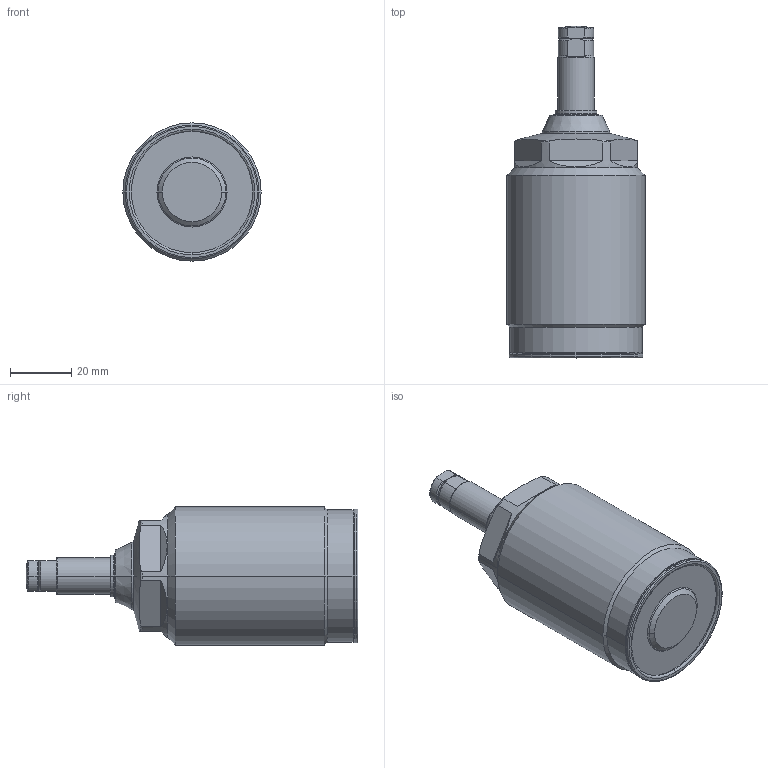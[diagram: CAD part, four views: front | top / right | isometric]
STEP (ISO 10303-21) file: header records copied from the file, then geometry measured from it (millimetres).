
FILE_DESCRIPTION(/* description */ (''),/* implementation_level */ '2;1');
FILE_NAME(/* name */ 'TNE45-Q.stp',/* time_stamp */ '2024-01-16T10:49:49+08:00',/* author */ (''),/* organization */ (''),/* preprocessor_version */ 'ST-DEVELOPER v16.7',/* originating_system */ 'SIEMENS PLM Software NX 12.0',/* authorisation */ '');
FILE_SCHEMA (('AP203_CONFIGURATION_CONTROLLED_3D_DESIGN_OF_MECHANICAL_PARTS_AND_ASSEMBLIES_MIM_LF { 1 0 10303 403 2 1 2}'));
Length unit declared in the file: millimetre
Products named in the file (7): XLD-M8_contactbolt1848; XLD-M8_Oring50; TNE45-Q-3; TNE45-Q-2; TNE45-Q-1; TNE45-Q-4; WNC3003-Q_step
Assembly tree (6 placements, depth 3):
  WNC3003-Q_step
    TNE45-Q-1
    TNE45-Q-2
    TNE45-Q-3
    TNE45-Q-4
      XLD-M8_Oring50
      XLD-M8_contactbolt1848
Bounding box: 45 x 108 x 45 mm (x, y, z)
Volume: 109870.4 mm3; surface area: 16363.9 mm2
Topology: 5 solids, 5 shells, 146 faces, 324 edges, 196 vertices
Faces by surface type: torus 45, cylinder 40, plane 35, cone 24, sphere 2
Entity records: 5174 total; most frequent: CARTESIAN_POINT 1061, DIRECTION 788, ORIENTED_EDGE 648, AXIS2_PLACEMENT_3D 349, EDGE_CURVE 324, VERTEX_POINT 196, CIRCLE 196, EDGE_LOOP 160
